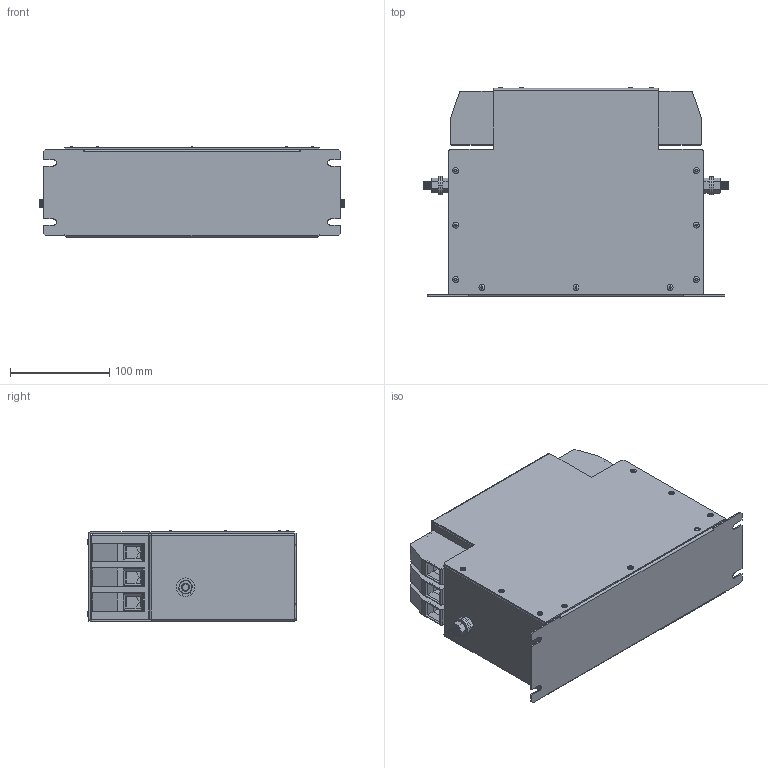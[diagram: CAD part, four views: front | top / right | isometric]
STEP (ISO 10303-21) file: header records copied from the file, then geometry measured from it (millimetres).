
FILE_DESCRIPTION (( 'STEP AP203' ), '1' );
FILE_NAME ('NF-CF-100,125 (G size).STEP', '2025-02-26T17:33:32', ( '' ), ( '' ), 'SwSTEP 2.0', 'SolidWorks 2017', '' );
FILE_SCHEMA (( 'CONFIG_CONTROL_DESIGN' ));
Length unit declared in the file: millimetre
Products named in the file (9): NF-CF-100,125 (G lid); HDFK-50; hex screw_am_B18.6.7M - M8 x 1.25 x 20 Plain HHMS --20S; NF-CF-100,125 (G size); NF-CF-100,125 (G case); M8x20 Earth post; 3.5mm Rivet; flat washer narrow_am_B18.22M - Plain washer, 8 mm, narrow; hex nut style 1_am_B18.2.4.1M - Hex nut, Style 1,  M8 x 1.25 --D-N
Assembly tree (27 placements, depth 3):
  NF-CF-100,125 (G size)
    NF-CF-100,125 (G case)
    NF-CF-100,125 (G lid)
    3.5mm Rivet  x13
    M8x20 Earth post  x2
      hex screw_am_B18.6.7M - M8 x 1.25 x 20 Plain HHMS --20S
      flat washer narrow_am_B18.22M - Plain washer, 8 mm, narrow
      hex nut style 1_am_B18.2.4.1M - Hex nut, Style 1,  M8 x 1.25 --D-N
    HDFK-50  x6
Bounding box: 309 x 211 x 91 mm (x, y, z)
Volume: 505420 mm3; surface area: 467847.1 mm2
Topology: 29 solids, 29 shells, 1085 faces, 2556 edges, 1592 vertices
Faces by surface type: plane 565, cylinder 296, cone 194, torus 26, bspline 4
Entity records: 16573 total; most frequent: CARTESIAN_POINT 2927, DIRECTION 2636, ORIENTED_EDGE 2456, EDGE_CURVE 1228, AXIS2_PLACEMENT_3D 927, VECTOR 782, LINE 782, VERTEX_POINT 754
